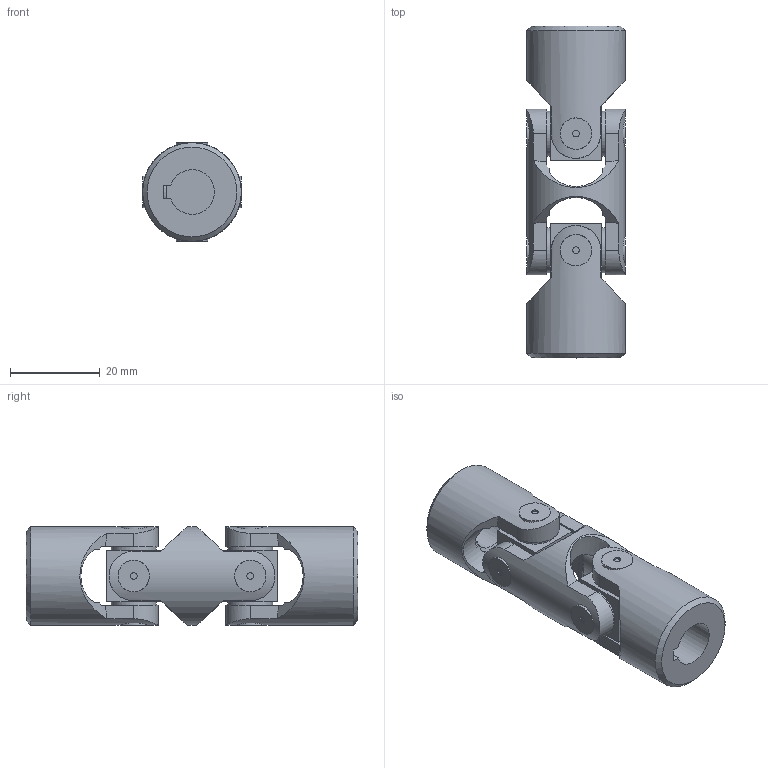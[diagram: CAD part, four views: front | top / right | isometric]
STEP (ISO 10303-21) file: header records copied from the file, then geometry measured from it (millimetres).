
FILE_DESCRIPTION(/* description */ (''),/* implementation_level */ '2;1');
FILE_NAME(/* name */ '\\SRV2016\Societa\Stefano\Disegni 3D\00Catalogo 3D\02Doppi GD-GBD\SG0D102C.stp',/* time_stamp */ '2021-11-22T17:03:54+01:00',/* author */ ('acquisti'),/* organization */ (''),/* preprocessor_version */ 'ST-DEVELOPER v15.6',/* originating_system */ 'Autodesk Inventor 2015',/* authorisation */ '');
FILE_SCHEMA (('AUTOMOTIVE_DESIGN { 1 0 10303 214 3 1 1 }'));
Length unit declared in the file: millimetre
Products named in the file (4): 03G MOD; 03G SFE; 03G MOC; Ø22_03GD-00_SG0D1000
Assembly tree (5 placements, depth 2):
  Ø22_03GD-00_SG0D1000
    03G MOD
    03G SFE  x2
    03G MOC  x2
Bounding box: 22 x 74 x 22 mm (x, y, z)
Volume: 18366.7 mm3; surface area: 10110.8 mm2
Topology: 5 solids, 5 shells, 148 faces, 346 edges, 228 vertices
Faces by surface type: plane 76, cylinder 48, cone 20, torus 4
Full cylindrical faces by diameter (mm): 1.5 x8, 10 x8, 11.5 x1, 22 x3
Entity records: 3450 total; most frequent: CARTESIAN_POINT 1239, ORIENTED_EDGE 434, DIRECTION 425, EDGE_CURVE 217, AXIS2_PLACEMENT_3D 184, VERTEX_POINT 153, EDGE_LOOP 134, FACE_OUTER_BOUND 100
